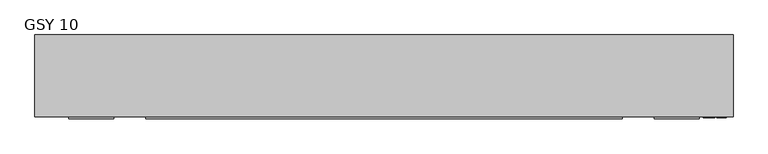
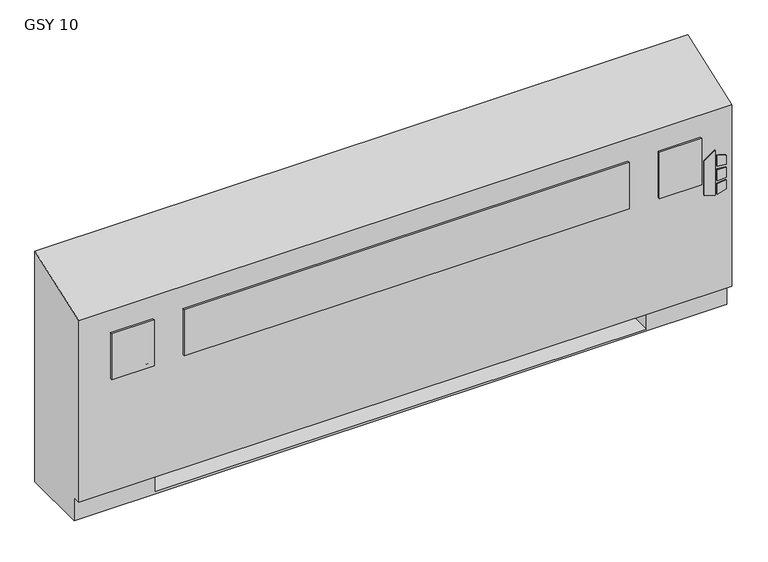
"""IFC4 building model written with IfcOpenShell, lengths in millimetres: proxy geometry, Vertical_Fan_Coil_Unit_-_GSY_-_IEC_-_2-Pipe_FS-FR_LH_2022 : GSY 10."""

from ifc_helpers import new_model, si_unit, point, frame, frame_2d, origin, place, context, project, spatial, polyline, circle_curve, trimmed, segment, composite_curve, outline, extrude, source, transform, mapped, element, save
from ifc_brep_helpers import plane_surface, revolved_surface, advanced_brep


def gsy_10_3fce5a1d(model_context):
    return source(origin(), model_context, "Body", "SolidModel", [
        extrude(outline(polyline([(391.6086829, 1046.2368862), (381.6606126, 1078.4102728), (523.831537, 1078.4102728), (500.8095309, 1046.2368862), (391.6086829, 1046.2368862)])), frame((0.0, 12.7, 0.0), z_axis=(0.0, 1.0, 0.0), x_axis=(0.0, 0.0, 1.0)), (0.0, 0.0, 1.0), 3.175),
        extrude(outline(polyline([(470.6079683, 1085.1686058), (467.4055757, 1111.25), (496.6344168, 1111.25), (504.6988318, 1085.1686058), (470.6079683, 1085.1686058)])), frame((0.0, 12.7, 0.0), z_axis=(0.0, 1.0, 0.0), x_axis=(0.0, 0.0, 1.0)), (0.0, 0.0, 1.0), 3.175),
        extrude(outline(polyline([(418.7444414, 1111.25), (415.0789404, 1085.1686058), (381.6606126, 1085.1686058), (390.2948498, 1111.25), (418.7444414, 1111.25)])), frame((0.0, 12.7, 0.0), z_axis=(0.0, 1.0, 0.0), x_axis=(0.0, 0.0, 1.0)), (0.0, 0.0, 1.0), 3.175),
        extrude(outline(polyline([(458.0596028, 1111.25), (460.3414292, 1085.1686058), (424.4038806, 1085.1686058), (427.1451456, 1111.25), (458.0596028, 1111.25)])), frame((0.0, 12.7, 0.0), z_axis=(0.0, 1.0, 0.0), x_axis=(0.0, 0.0, 1.0)), (0.0, 0.0, 1.0), 3.175),
        extrude(outline(polyline([(-604.393, 9.525), (-731.393, 9.525), (-731.393, 15.875), (-604.393, 15.875), (-604.393, 9.525)])), frame((0.0, 0.0, 431.8), z_axis=(0.0, 0.0, 1.0), x_axis=(1.0, 0.0, 0.0)), (0.0, 0.0, 1.0), 146.05),
        extrude(outline(polyline([(819.15, 9.525), (-514.35, 9.525), (-514.35, 15.875), (819.15, 15.875), (819.15, 9.525)])), frame((0.0, 0.0, 431.8), z_axis=(0.0, 0.0, 1.0), x_axis=(1.0, 0.0, 0.0)), (0.0, 0.0, 1.0), 146.05),
        extrude(outline(polyline([(1036.193, 9.525), (909.193, 9.525), (909.193, 15.875), (1036.193, 15.875), (1036.193, 9.525)])), frame((0.0, 0.0, 431.8), z_axis=(0.0, 0.0, 1.0), x_axis=(1.0, 0.0, 0.0)), (0.0, 0.0, 1.0), 146.05),
        extrude(outline(polyline([(889.0, 81.534), (889.0, 223.266), (1009.65, 223.266), (1009.65, 81.534), (889.0, 81.534)])), frame((0.0, 0.0, 327.025), z_axis=(0.0, 0.0, 1.0), x_axis=(1.0, 0.0, 0.0)), (0.0, 0.0, 1.0), 260.35),
        extrude(outline(composite_curve([segment(trimmed(circle_curve(frame_2d((80.645, 397.002)), 7.9375), [point((80.645, 404.9395))], [point((80.645, 389.0645))], False, "CARTESIAN"), True, "CONTINUOUS"), segment(trimmed(circle_curve(frame_2d((80.645, 397.002)), 7.9375), [point((80.645, 389.0645))], [point((80.645, 404.9395))], False, "CARTESIAN"), True, "CONTINUOUS")], self_intersect=False)), frame((-635.0, 0.0, 0.0), z_axis=(1.0, 0.0, 0.0), x_axis=(0.0, 1.0, 0.0)), (0.0, 0.0, 1.0), 50.8),
        extrude(outline(composite_curve([segment(trimmed(circle_curve(frame_2d((156.8958, 535.8892)), 7.9375), [point((156.8958, 543.8267))], [point((156.8958, 527.9517))], False, "CARTESIAN"), True, "CONTINUOUS"), segment(trimmed(circle_curve(frame_2d((156.8958, 535.8892)), 7.9375), [point((156.8958, 527.9517))], [point((156.8958, 543.8267))], False, "CARTESIAN"), True, "CONTINUOUS")], self_intersect=False)), frame((-635.0, 0.0, 0.0), z_axis=(1.0, 0.0, 0.0), x_axis=(0.0, 1.0, 0.0)), (0.0, 0.0, 1.0), 50.8),
        advanced_brep(
        [(-825.5, 244.475, 0.0), (1130.3, 244.475, 0.0), (1130.3, 41.275, 0.0), (-825.5, 41.275, 0.0), (-825.5, 244.475, 730.25), (1130.3, 244.475, 730.25), (889.0, 244.475, 73.025), (1117.6, 244.475, 73.025), (1117.6, 244.475, 654.05), (889.0, 244.475, 654.05), (889.0, 244.475, 414.8650565), (917.575, 244.475, 414.8650565), (917.575, 244.475, 385.2349435), (889.0, 244.475, 385.2349435), (889.0, 244.475, 287.3375), (917.575, 244.475, 287.3375), (917.575, 244.475, 258.7625), (889.0, 244.475, 258.7625), (889.0, 244.475, 141.2875), (917.575, 244.475, 141.2875), (917.575, 244.475, 112.7125), (889.0, 244.475, 112.7125), (-584.2, 244.475, 654.05), (-812.8, 244.475, 654.05), (-812.8, 244.475, 73.025), (-584.2, 244.475, 73.025), (-584.2, 244.475, 112.7125), (-612.775, 244.475, 112.7125), (-612.775, 244.475, 141.2875), (-584.2, 244.475, 141.2875), (-584.2, 244.475, 258.7625), (-612.775, 244.475, 258.7625), (-612.775, 244.475, 287.3375), (-584.2, 244.475, 287.3375), (-584.2, 244.475, 385.2349435), (-612.775, 244.475, 385.2349435), (-612.775, 244.475, 414.8650565), (-584.2, 244.475, 414.8650565), (907.2626, 244.475, 127.0), (896.1374, 244.475, 127.0), (907.2626, 244.475, 400.05), (896.1374, 244.475, 400.05), (907.2626, 244.475, 273.05), (896.1374, 244.475, 273.05), (-591.3374, 244.475, 127.0), (-602.4626, 244.475, 127.0), (-591.3374, 244.475, 273.05), (-602.4626, 244.475, 273.05), (-591.3374, 244.475, 400.05), (-602.4626, 244.475, 400.05), (-825.5, 41.275, 73.025), (-825.5, 15.875, 73.025), (-825.5, 15.875, 647.7), (1130.3, 15.875, 73.025), (1130.3, 15.875, 647.7), (1130.3, 41.275, 73.025), (-584.2, 41.275, 73.025), (-584.2, 225.425, 73.025), (889.0, 225.425, 73.025), (889.0, 41.275, 73.025), (889.0, 41.275, 6.35), (-584.2, 41.275, 6.35), (889.0, 41.275, 654.05), (1117.6, 41.275, 654.05), (1117.6, 41.275, 73.025), (889.0, 41.275, 73.025), (-584.2, 41.275, 654.05), (-584.2, 41.275, 73.025), (-812.8, 41.275, 73.025), (-812.8, 41.275, 654.05), (889.0, 225.425, 73.025), (889.0, 238.125, 112.7125), (889.0, 238.125, 141.2875), (889.0, 238.125, 258.7625), (889.0, 238.125, 287.3375), (889.0, 238.125, 385.2349435), (889.0, 238.125, 414.8650565), (-584.2, 225.425, 73.025), (-584.2, 238.125, 414.8650565), (-584.2, 238.125, 385.2349435), (-584.2, 238.125, 287.3375), (-584.2, 238.125, 258.7625), (-584.2, 238.125, 141.2875), (-584.2, 238.125, 112.7125), (-584.2, 225.425, 6.35), (889.0, 225.425, 6.35), (917.575, 238.125, 112.7125), (917.575, 238.125, 141.2875), (896.1374, 238.125, 127.0), (907.2626, 238.125, 127.0), (917.575, 238.125, 258.7625), (917.575, 238.125, 287.3375), (896.1374, 238.125, 273.05), (907.2626, 238.125, 273.05), (917.575, 238.125, 385.2349435), (917.575, 238.125, 414.8650565), (896.1374, 238.125, 400.05), (907.2626, 238.125, 400.05), (-612.775, 238.125, 141.2875), (-612.775, 238.125, 112.7125), (-602.4626, 238.125, 127.0), (-591.3374, 238.125, 127.0), (-612.775, 238.125, 287.3375), (-612.775, 238.125, 258.7625), (-602.4626, 238.125, 273.05), (-591.3374, 238.125, 273.05), (-612.775, 238.125, 414.8650565), (-612.775, 238.125, 385.2349435), (-602.4626, 238.125, 400.05), (-591.3374, 238.125, 400.05)],
        [
            (0, 1),
            (1, 2),
            (2, 3),
            (3, 0),
            (0, 4),
            (4, 5),
            (5, 1),
            (6, 7),
            (7, 8),
            (8, 9),
            (9, 10),
            (10, 11),
            (11, 12),
            (12, 13),
            (13, 14),
            (14, 15),
            (15, 16),
            (16, 17),
            (17, 18),
            (18, 19),
            (19, 20),
            (20, 21),
            (21, 6),
            (22, 23),
            (23, 24),
            (24, 25),
            (25, 26),
            (26, 27),
            (27, 28),
            (28, 29),
            (29, 30),
            (30, 31),
            (31, 32),
            (32, 33),
            (33, 34),
            (34, 35),
            (35, 36),
            (36, 37),
            (37, 22),
            (38, 39, circle_curve(frame((901.7, 244.475, 127.0), z_axis=(0.0, -1.0, 0.0), x_axis=(-1.0, 0.0, 0.0)), 5.5626)),
            (39, 38, circle_curve(frame((901.7, 244.475, 127.0), z_axis=(0.0, -1.0, 0.0), x_axis=(-1.0, 0.0, 0.0)), 5.5626)),
            (40, 41, circle_curve(frame((901.7, 244.475, 400.05), z_axis=(0.0, -1.0, 0.0), x_axis=(-1.0, 0.0, 0.0)), 5.5626)),
            (41, 40, circle_curve(frame((901.7, 244.475, 400.05), z_axis=(0.0, -1.0, 0.0), x_axis=(-1.0, 0.0, 0.0)), 5.5626)),
            (42, 43, circle_curve(frame((901.7, 244.475, 273.05), z_axis=(0.0, -1.0, 0.0), x_axis=(-1.0, 0.0, 0.0)), 5.5626)),
            (43, 42, circle_curve(frame((901.7, 244.475, 273.05), z_axis=(0.0, -1.0, 0.0), x_axis=(-1.0, 0.0, 0.0)), 5.5626)),
            (44, 45, circle_curve(frame((-596.9, 244.475, 127.0), z_axis=(0.0, -1.0, 0.0), x_axis=(-1.0, 0.0, 0.0)), 5.5626)),
            (45, 44, circle_curve(frame((-596.9, 244.475, 127.0), z_axis=(0.0, -1.0, 0.0), x_axis=(-1.0, 0.0, 0.0)), 5.5626)),
            (46, 47, circle_curve(frame((-596.9, 244.475, 273.05), z_axis=(0.0, -1.0, 0.0), x_axis=(-1.0, 0.0, 0.0)), 5.5626)),
            (47, 46, circle_curve(frame((-596.9, 244.475, 273.05), z_axis=(0.0, -1.0, 0.0), x_axis=(-1.0, 0.0, 0.0)), 5.5626)),
            (48, 49, circle_curve(frame((-596.9, 244.475, 400.05), z_axis=(0.0, -1.0, 0.0), x_axis=(-1.0, 0.0, 0.0)), 5.5626)),
            (49, 48, circle_curve(frame((-596.9, 244.475, 400.05), z_axis=(0.0, -1.0, 0.0), x_axis=(-1.0, 0.0, 0.0)), 5.5626)),
            (3, 50),
            (50, 51),
            (51, 52),
            (52, 4),
            (51, 53),
            (53, 54),
            (54, 52),
            (5, 54),
            (53, 55),
            (55, 2),
            (50, 56),
            (56, 57),
            (57, 58),
            (58, 59),
            (59, 55),
            (59, 60),
            (60, 61),
            (61, 56),
            (62, 63),
            (63, 64),
            (64, 65),
            (65, 62),
            (66, 67),
            (67, 68),
            (68, 69),
            (69, 66),
            (65, 70),
            (70, 6),
            (21, 71),
            (71, 72),
            (72, 18),
            (17, 73),
            (73, 74),
            (74, 14),
            (13, 75),
            (75, 76),
            (76, 10),
            (9, 62),
            (64, 7),
            (63, 8),
            (69, 23),
            (22, 66),
            (68, 24),
            (67, 77),
            (77, 25),
            (37, 78),
            (78, 79),
            (79, 34),
            (33, 80),
            (80, 81),
            (81, 30),
            (29, 82),
            (82, 83),
            (83, 26),
            (57, 84),
            (84, 85),
            (85, 58),
            (85, 60),
            (84, 61),
            (71, 86),
            (86, 87),
            (87, 72),
            (88, 89, circle_curve(frame((901.7, 238.125, 127.0), z_axis=(0.0, 1.0, 0.0), x_axis=(-1.0, 0.0, 0.0)), 5.5626)),
            (89, 88, circle_curve(frame((901.7, 238.125, 127.0), z_axis=(0.0, 1.0, 0.0), x_axis=(-1.0, 0.0, 0.0)), 5.5626)),
            (73, 90),
            (90, 91),
            (91, 74),
            (92, 93, circle_curve(frame((901.7, 238.125, 273.05), z_axis=(0.0, 1.0, 0.0), x_axis=(-1.0, 0.0, 0.0)), 5.5626)),
            (93, 92, circle_curve(frame((901.7, 238.125, 273.05), z_axis=(0.0, 1.0, 0.0), x_axis=(-1.0, 0.0, 0.0)), 5.5626)),
            (75, 94),
            (94, 95),
            (95, 76),
            (96, 97, circle_curve(frame((901.7, 238.125, 400.05), z_axis=(0.0, 1.0, 0.0), x_axis=(-1.0, 0.0, 0.0)), 5.5626)),
            (97, 96, circle_curve(frame((901.7, 238.125, 400.05), z_axis=(0.0, 1.0, 0.0), x_axis=(-1.0, 0.0, 0.0)), 5.5626)),
            (98, 99),
            (99, 83),
            (82, 98),
            (100, 101, circle_curve(frame((-596.9, 238.125, 127.0), z_axis=(0.0, 1.0, 0.0), x_axis=(-1.0, 0.0, 0.0)), 5.5626)),
            (101, 100, circle_curve(frame((-596.9, 238.125, 127.0), z_axis=(0.0, 1.0, 0.0), x_axis=(-1.0, 0.0, 0.0)), 5.5626)),
            (102, 103),
            (103, 81),
            (80, 102),
            (104, 105, circle_curve(frame((-596.9, 238.125, 273.05), z_axis=(0.0, 1.0, 0.0), x_axis=(-1.0, 0.0, 0.0)), 5.5626)),
            (105, 104, circle_curve(frame((-596.9, 238.125, 273.05), z_axis=(0.0, 1.0, 0.0), x_axis=(-1.0, 0.0, 0.0)), 5.5626)),
            (106, 107),
            (107, 79),
            (78, 106),
            (108, 109, circle_curve(frame((-596.9, 238.125, 400.05), z_axis=(0.0, 1.0, 0.0), x_axis=(-1.0, 0.0, 0.0)), 5.5626)),
            (109, 108, circle_curve(frame((-596.9, 238.125, 400.05), z_axis=(0.0, 1.0, 0.0), x_axis=(-1.0, 0.0, 0.0)), 5.5626)),
            (87, 19),
            (86, 20),
            (91, 15),
            (90, 16),
            (95, 11),
            (94, 12),
            (28, 98),
            (99, 27),
            (32, 102),
            (103, 31),
            (36, 106),
            (107, 35),
            (88, 39),
            (38, 89),
            (96, 41),
            (40, 97),
            (92, 43),
            (42, 93),
            (100, 45),
            (44, 101),
            (104, 47),
            (46, 105),
            (108, 49),
            (48, 109),
        ],
        [
            plane_surface(frame((-825.5, 244.475, 0.0), z_axis=(0.0, 0.0, -1.0), x_axis=(1.0, 0.0, 0.0))),
            plane_surface(frame((1130.3, 244.475, 730.25), z_axis=(0.0, 1.0, 0.0), x_axis=(0.0, 0.0, -1.0))),
            plane_surface(frame((-825.5, 244.475, 730.25), z_axis=(-1.0, 0.0, 0.0), x_axis=(0.0, 0.0, -1.0))),
            plane_surface(frame((-825.5, 15.875, 730.25), z_axis=(0.0, -1.0, 0.0), x_axis=(0.0, 0.0, -1.0))),
            plane_surface(frame((1130.3, 15.875, 730.25), z_axis=(1.0, 0.0, 0.0), x_axis=(0.0, 0.0, -1.0))),
            plane_surface(frame((-825.5, 15.875, 73.025), z_axis=(0.0, 0.0, -1.0), x_axis=(1.0, 0.0, 0.0))),
            plane_surface(frame((-825.5, 41.275, 73.025), z_axis=(0.0, -1.0, 0.0), x_axis=(1.0, 0.0, 0.0))),
            plane_surface(frame((889.0, 41.275, 654.05), z_axis=(0.0, 1.0, 0.0), x_axis=(0.0, 0.0, -1.0))),
            plane_surface(frame((889.0, 41.275, 654.05), z_axis=(1.0, 0.0, 0.0), x_axis=(0.0, 1.0, 0.0))),
            plane_surface(frame((889.0, 41.275, 73.025), z_axis=(0.0, 0.0, 1.0), x_axis=(0.0, 1.0, 0.0))),
            plane_surface(frame((1117.6, 41.275, 73.025), z_axis=(-1.0, 0.0, 0.0), x_axis=(0.0, 1.0, 0.0))),
            plane_surface(frame((1117.6, 41.275, 654.05), z_axis=(0.0, 0.0, -1.0), x_axis=(0.0, 1.0, 0.0))),
            plane_surface(frame((-584.2, 41.275, 654.05), z_axis=(0.0, 0.0, -1.0), x_axis=(0.0, 1.0, 0.0))),
            plane_surface(frame((-812.8, 41.275, 654.05), z_axis=(1.0, 0.0, 0.0), x_axis=(0.0, 1.0, 0.0))),
            plane_surface(frame((-812.8, 41.275, 73.025), z_axis=(0.0, 0.0, 1.0), x_axis=(0.0, 1.0, 0.0))),
            plane_surface(frame((-584.2, 41.275, 73.025), z_axis=(-1.0, 0.0, 0.0), x_axis=(0.0, 1.0, 0.0))),
            plane_surface(frame((889.0, 225.425, 73.025), z_axis=(0.0, -1.0, 0.0), x_axis=(0.0, 0.0, -1.0))),
            plane_surface(frame((889.0, 225.425, 73.025), z_axis=(-1.0, 0.0, 0.0), x_axis=(0.0, -1.0, 0.0))),
            plane_surface(frame((889.0, 225.425, 6.35), z_axis=(0.0, 0.0, 1.0), x_axis=(0.0, -1.0, 0.0))),
            plane_surface(frame((-584.2, 225.425, 6.35), z_axis=(1.0, 0.0, 0.0), x_axis=(0.0, -1.0, 0.0))),
            plane_surface(frame((917.575, 238.125, 141.2875), z_axis=(0.0, -1.0, 0.0), x_axis=(-1.0, 0.0, 0.0))),
            plane_surface(frame((889.0, 244.475, 141.2875), z_axis=(0.0, 0.0, 1.0), x_axis=(0.0, -1.0, 0.0))),
            plane_surface(frame((917.575, 244.475, 141.2875), z_axis=(1.0, 0.0, 0.0), x_axis=(0.0, -1.0, 0.0))),
            plane_surface(frame((917.575, 244.475, 112.7125), z_axis=(0.0, 0.0, -1.0), x_axis=(0.0, -1.0, 0.0))),
            plane_surface(frame((889.0, 244.475, 287.3375), z_axis=(0.0, 0.0, 1.0), x_axis=(0.0, -1.0, 0.0))),
            plane_surface(frame((917.575, 244.475, 287.3375), z_axis=(1.0, 0.0, 0.0), x_axis=(0.0, -1.0, 0.0))),
            plane_surface(frame((917.575, 244.475, 258.7625), z_axis=(0.0, 0.0, -1.0), x_axis=(0.0, -1.0, 0.0))),
            plane_surface(frame((889.0, 244.475, 414.8650565), z_axis=(0.0, 0.0, 1.0), x_axis=(0.0, -1.0, 0.0))),
            plane_surface(frame((917.575, 244.475, 414.8650565), z_axis=(1.0, 0.0, 0.0), x_axis=(0.0, -1.0, 0.0))),
            plane_surface(frame((917.575, 244.475, 385.2349435), z_axis=(0.0, 0.0, -1.0), x_axis=(0.0, -1.0, 0.0))),
            plane_surface(frame((-612.775, 244.475, 141.2875), z_axis=(0.0, 0.0, 1.0), x_axis=(0.0, -1.0, 0.0))),
            plane_surface(frame((-584.2, 244.475, 112.7125), z_axis=(0.0, 0.0, -1.0), x_axis=(0.0, -1.0, 0.0))),
            plane_surface(frame((-612.775, 244.475, 112.7125), z_axis=(-1.0, 0.0, 0.0), x_axis=(0.0, -1.0, 0.0))),
            plane_surface(frame((-612.775, 244.475, 287.3375), z_axis=(0.0, 0.0, 1.0), x_axis=(0.0, -1.0, 0.0))),
            plane_surface(frame((-584.2, 244.475, 258.7625), z_axis=(0.0, 0.0, -1.0), x_axis=(0.0, -1.0, 0.0))),
            plane_surface(frame((-612.775, 244.475, 258.7625), z_axis=(-1.0, 0.0, 0.0), x_axis=(0.0, -1.0, 0.0))),
            plane_surface(frame((-612.775, 244.475, 414.8650565), z_axis=(0.0, 0.0, 1.0), x_axis=(0.0, -1.0, 0.0))),
            plane_surface(frame((-584.2, 244.475, 385.2349435), z_axis=(0.0, 0.0, -1.0), x_axis=(0.0, -1.0, 0.0))),
            plane_surface(frame((-612.775, 244.475, 385.2349435), z_axis=(-1.0, 0.0, 0.0), x_axis=(0.0, -1.0, 0.0))),
            revolved_surface(polyline([(896.1374000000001, 238.125, 127.0), (896.1374000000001, 244.475, 127.0)]), (901.7, 244.475, 127.0), (0.0, -1.0, 0.0)),
            revolved_surface(polyline([(896.1374000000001, 238.125, 400.05), (896.1374000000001, 244.475, 400.05)]), (901.7, 244.475, 400.05), (0.0, -1.0, 0.0)),
            revolved_surface(polyline([(896.1374000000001, 238.125, 273.05), (896.1374000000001, 244.475, 273.05)]), (901.7, 244.475, 273.05), (0.0, -1.0, 0.0)),
            revolved_surface(polyline([(-602.4626, 238.125, 127.0), (-602.4626, 244.475, 127.0)]), (-596.9, 244.475, 127.0), (0.0, -1.0, 0.0)),
            revolved_surface(polyline([(-602.4626, 238.125, 273.05), (-602.4626, 244.475, 273.05)]), (-596.9, 244.475, 273.05), (0.0, -1.0, 0.0)),
            revolved_surface(polyline([(-602.4626, 238.125, 400.05), (-602.4626, 244.475, 400.05)]), (-596.9, 244.475, 400.05), (0.0, -1.0, 0.0)),
            plane_surface(frame((-825.5, 244.475, 730.25), z_axis=(0.0, -0.33964446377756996, 0.9405538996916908), x_axis=(1.0, 0.0, 0.0))),
        ],
        [
            (0, [[1, 2, 3, 4]]),
            (1, [[-1, 5, 6, 7], [8, 9, 10, 11, 12, 13, 14, 15, 16, 17, 18, 19, 20, 21, 22, 23], [24, 25, 26, 27, 28, 29, 30, 31, 32, 33, 34, 35, 36, 37, 38, 39], [40, 41], [42, 43], [44, 45], [46, 47], [48, 49], [50, 51]]),
            (2, [[-5, -4, 52, 53, 54, 55]]),
            (3, [[56, 57, 58, -54]]),
            (4, [[-7, 59, -57, 60, 61, -2]]),
            (5, [[-53, 62, 63, 64, 65, 66, -60, -56]]),
            (6, [[-3, -61, -66, 67, 68, 69, -62, -52]]),
            (7, [[70, 71, 72, 73]]),
            (7, [[74, 75, 76, 77]]),
            (8, [[-73, 78, 79, -23, 80, 81, 82, -19, 83, 84, 85, -15, 86, 87, 88, -11, 89]]),
            (9, [[-72, 90, -8, -79, -78]]),
            (10, [[-71, 91, -9, -90]]),
            (11, [[-70, -89, -10, -91]]),
            (12, [[-77, 92, -24, 93]]),
            (13, [[-76, 94, -25, -92]]),
            (14, [[-75, 95, 96, -26, -94]]),
            (15, [[-74, -93, -39, 97, 98, 99, -35, 100, 101, 102, -31, 103, 104, 105, -27, -96, -95]]),
            (16, [[-64, 106, 107, 108]]),
            (17, [[-108, 109, -67, -65]]),
            (18, [[-107, 110, -68, -109]]),
            (19, [[-106, -63, -69, -110]]),
            (20, [[111, 112, 113, -81], [114, 115]]),
            (20, [[116, 117, 118, -84], [119, 120]]),
            (20, [[121, 122, 123, -87], [124, 125]]),
            (20, [[126, 127, -104, 128], [129, 130]]),
            (20, [[131, 132, -101, 133], [134, 135]]),
            (20, [[136, 137, -98, 138], [139, 140]]),
            (21, [[-113, 141, -20, -82]]),
            (22, [[-112, 142, -21, -141]]),
            (23, [[-111, -80, -22, -142]]),
            (24, [[-118, 143, -16, -85]]),
            (25, [[-117, 144, -17, -143]]),
            (26, [[-116, -83, -18, -144]]),
            (27, [[-123, 145, -12, -88]]),
            (28, [[-122, 146, -13, -145]]),
            (29, [[-121, -86, -14, -146]]),
            (30, [[-128, -103, -30, 147]]),
            (31, [[-127, 148, -28, -105]]),
            (32, [[-126, -147, -29, -148]]),
            (33, [[-133, -100, -34, 149]]),
            (34, [[-132, 150, -32, -102]]),
            (35, [[-131, -149, -33, -150]]),
            (36, [[-138, -97, -38, 151]]),
            (37, [[-137, 152, -36, -99]]),
            (38, [[-136, -151, -37, -152]]),
            (39, [[153, -40, 154, -114]]),
            (39, [[-153, -115, -154, -41]]),
            (40, [[155, -42, 156, -124]]),
            (40, [[-155, -125, -156, -43]]),
            (41, [[157, -44, 158, -119]]),
            (41, [[-157, -120, -158, -45]]),
            (42, [[159, -46, 160, -129]]),
            (42, [[-159, -130, -160, -47]]),
            (43, [[161, -48, 162, -134]]),
            (43, [[-161, -135, -162, -49]]),
            (44, [[163, -50, 164, -139]]),
            (44, [[-163, -140, -164, -51]]),
            (45, [[-6, -55, -58, -59]]),
        ],
    ),
    ])


if __name__ == "__main__":
    model = new_model("IFC4")
    model_context = context("Model", 3, world=origin())
    ifc_project = project(units=[si_unit("LENGTHUNIT", "METRE", prefix="MILLI")], contexts=[model_context])
    site = spatial("IfcSite", under=ifc_project)
    building = spatial("IfcBuilding", under=site)
    placement = place(None, origin())
    gsy_10_shape = gsy_10_3fce5a1d(model_context)
    element("IfcBuildingElementProxy", 1, Name="Vertical_Fan_Coil_Unit_-_GSY_-_IEC_-_2-Pipe_FS-FR_LH_2022 : GSY 10", ObjectType="Vertical_Fan_Coil_Unit_-_GSY_-_IEC_-_2-Pipe_FS-FR_LH_2022 : GSY 10", at=placement, inside=building, context=model_context, shape_type="MappedRepresentation", body=[
        mapped(gsy_10_shape, transform((0.0, 0.0, 0.0), x_axis=(1.0, 0.0, 0.0), y_axis=(0.0, 1.0, 0.0), z_axis=(0.0, 0.0, 1.0))),
    ])
    save(model, "model.ifc")
